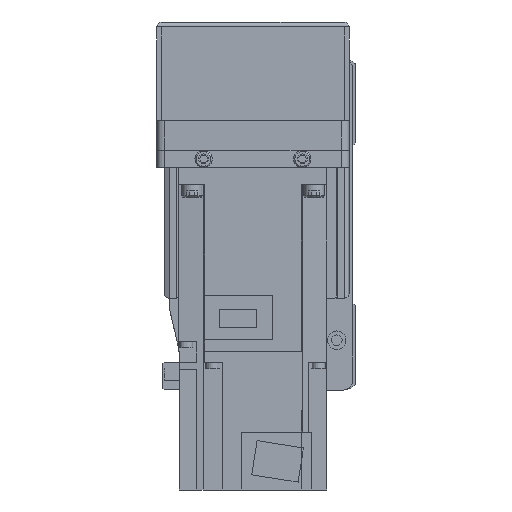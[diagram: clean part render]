
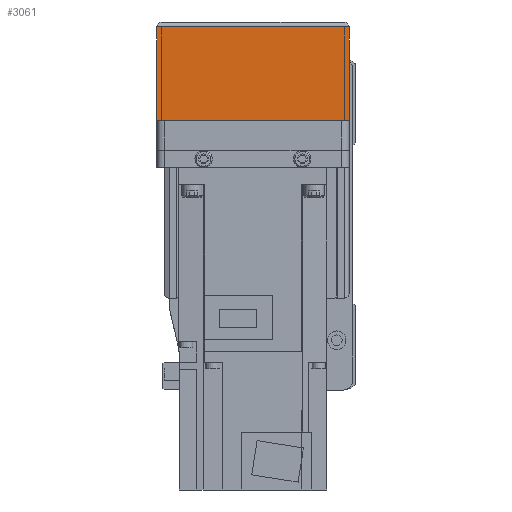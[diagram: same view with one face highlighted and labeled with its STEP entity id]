
A CAD part, left-side view. The second image highlights one B-rep face of the part: STEP entity #3061.
In plain terms, the highlighted planar face has unit normal (-1, 0, 0).
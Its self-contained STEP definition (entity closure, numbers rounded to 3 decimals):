
#3061 = ADVANCED_FACE( '', ( #6495 ), #6496, .F. );
#6495 = FACE_OUTER_BOUND( '', #10112, .T. );
#6496 = PLANE( '', #10113 );
#10112 = EDGE_LOOP( '', ( #18691, #18692, #18693, #18694 ) );
#10113 = AXIS2_PLACEMENT_3D( '', #18695, #18696, #18697 );
#18691 = ORIENTED_EDGE( '', *, *, #22885, .F. );
#18692 = ORIENTED_EDGE( '', *, *, #23582, .F. );
#18693 = ORIENTED_EDGE( '', *, *, #23150, .T. );
#18694 = ORIENTED_EDGE( '', *, *, #22609, .F. );
#18695 = CARTESIAN_POINT( '', ( -158., 36., 7. ) );
#18696 = DIRECTION( '', ( 1., 0., 0. ) );
#18697 = DIRECTION( '', ( 0., 0., -1. ) );
#22609 = EDGE_CURVE( '', #26622, #27566, #27798, .T. );
#22885 = EDGE_CURVE( '', #27817, #26622, #28158, .T. );
#23150 = EDGE_CURVE( '', #28247, #27566, #28509, .T. );
#23582 = EDGE_CURVE( '', #28247, #27817, #29025, .T. );
#26622 = VERTEX_POINT( '', #33729 );
#27566 = VERTEX_POINT( '', #35182 );
#27798 = LINE( '', #35492, #35493 );
#27817 = VERTEX_POINT( '', #35526 );
#28158 = LINE( '', #36075, #36076 );
#28247 = VERTEX_POINT( '', #36217 );
#28509 = LINE( '', #36600, #36601 );
#29025 = LINE( '', #37503, #37504 );
#33729 = CARTESIAN_POINT( '', ( -158., -39., -12.1 ) );
#35182 = CARTESIAN_POINT( '', ( -158., -39., -50. ) );
#35492 = CARTESIAN_POINT( '', ( -158., -39., -12.1 ) );
#35493 = VECTOR( '', #40924, 1000. );
#35526 = CARTESIAN_POINT( '', ( -158., 39., -12.1 ) );
#36075 = CARTESIAN_POINT( '', ( -158., 50., -12.1 ) );
#36076 = VECTOR( '', #41186, 1000. );
#36217 = CARTESIAN_POINT( '', ( -158., 39., -50. ) );
#36600 = CARTESIAN_POINT( '', ( -158., 40., -50. ) );
#36601 = VECTOR( '', #41509, 1000. );
#37503 = CARTESIAN_POINT( '', ( -158., 39., -50. ) );
#37504 = VECTOR( '', #41848, 1000. );
#40924 = DIRECTION( '', ( 0., 0., -1. ) );
#41186 = DIRECTION( '', ( 0., -1., 0. ) );
#41509 = DIRECTION( '', ( 0., -1., 0. ) );
#41848 = DIRECTION( '', ( 0., 0., 1. ) );
